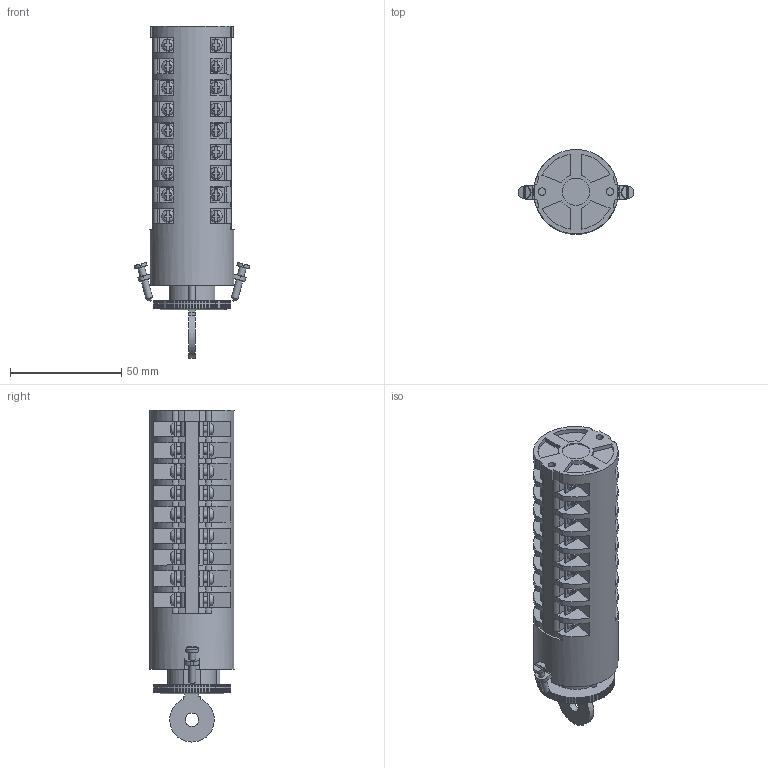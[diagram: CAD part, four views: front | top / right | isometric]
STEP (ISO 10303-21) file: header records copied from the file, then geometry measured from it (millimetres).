
FILE_DESCRIPTION(/* description */ (''),/* implementation_level */ '2;1');
FILE_NAME(/* name */ '4G10-U_wykonanie_S10_9_korpusow.stp',/* time_stamp */ '2021-07-21T08:28:58+02:00',/* author */ (''),/* organization */ (''),/* preprocessor_version */ 'ST-DEVELOPER v18.1',/* originating_system */ 'SIEMENS PLM Software NX 1965',/* authorisation */ '');
FILE_SCHEMA (('AUTOMOTIVE_DESIGN { 1 0 10303 214 3 1 1 1 }'));
Length unit declared in the file: millimetre
Products named in the file (1): 4G10-U_wykonanie_S10_9_korpusow_stp
Bounding box: 51.98 x 38 x 149.08 mm (x, y, z)
Volume: 116082.3 mm3; surface area: 34575.1 mm2
Topology: 1 solids, 3 shells, 1487 faces, 4209 edges, 2816 vertices
Faces by surface type: plane 1205, cylinder 240, bspline 36, cone 4, torus 2
Full cylindrical faces by diameter (mm): 3 x4, 3.2 x36, 3.4 x4, 5.5 x2, 5.6 x2, 6 x1, 12.3 x1, 15.8 x1, 16.1 x1, 38 x1
Entity records: 48152 total; most frequent: CARTESIAN_POINT 10562, ORIENTED_EDGE 8054, DIRECTION 7394, EDGE_CURVE 4027, VERTEX_POINT 2731, LINE 2668, VECTOR 2668, AXIS2_PLACEMENT_3D 2363
